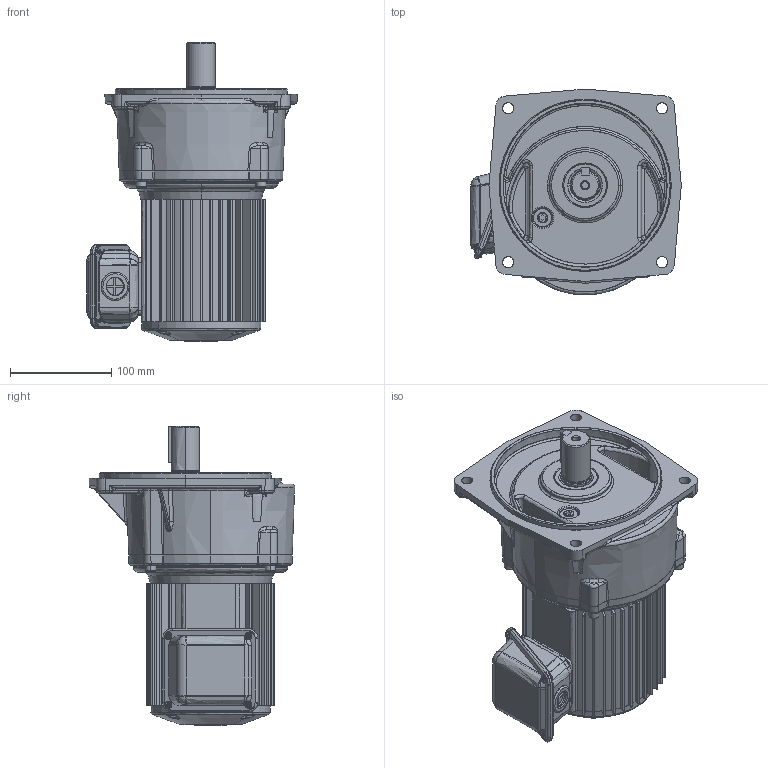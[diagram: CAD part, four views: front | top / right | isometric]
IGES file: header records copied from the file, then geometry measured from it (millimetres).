
Start section: SolidWorks IGES file using analytic representation for surfaces
Global section: file name: \\100.100.100.8\1_共有作業フォルダ\1-5_３Ｄデータ\solidworks\personal-folder\H.Nagayama\SGP1外形\P1(3D)\igs\TMF2-02-(100~200).IGS; native system: SolidWorks 2018; preprocessor: SolidWorks 2018; author: sigma-giken; date: 200508.141414; units: millimetre
Bounding box: 208 x 203.34 x 295.5 mm (x, y, z)
Surface area: 395932.6 mm2 (no closed solid volume)
Topology: 0 solids, 0 shells, 1378 faces, 16584 edges, 16559 vertices
Faces by surface type: bspline 778, revolution 600
